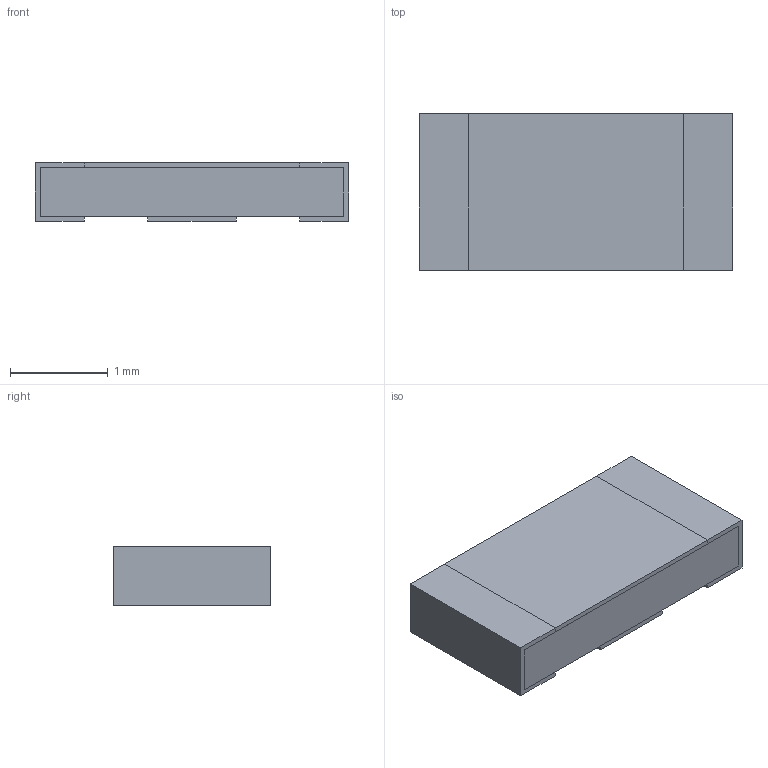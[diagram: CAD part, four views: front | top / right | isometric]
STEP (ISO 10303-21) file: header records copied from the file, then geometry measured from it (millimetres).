
FILE_DESCRIPTION(('STEP AP203'), '1');
FILE_NAME('P1-85-3', '', ('UNSPECIFIED'), ('UNSPECIFIED'), 'ASCON STEP Converter 1.6', 'ASCON Math Kernel', '');
FILE_SCHEMA(('CONFIG_CONTROL_DESIGN'));
Length unit declared in the file: millimetre
Bounding box: 3.2 x 1.6 x 0.6 mm (x, y, z)
Volume: 3 mm3; surface area: 36.5 mm2
Topology: 5 solids, 6 shells, 57 faces, 135 edges, 90 vertices
Faces by surface type: plane 53, cylinder 4
Entity records: 2143 total; most frequent: CARTESIAN_POINT 283, ORIENTED_EDGE 270, DIRECTION 259, EDGE_CURVE 135, LINE 127, VECTOR 127, VERTEX_POINT 90, AXIS2_PLACEMENT_3D 66
